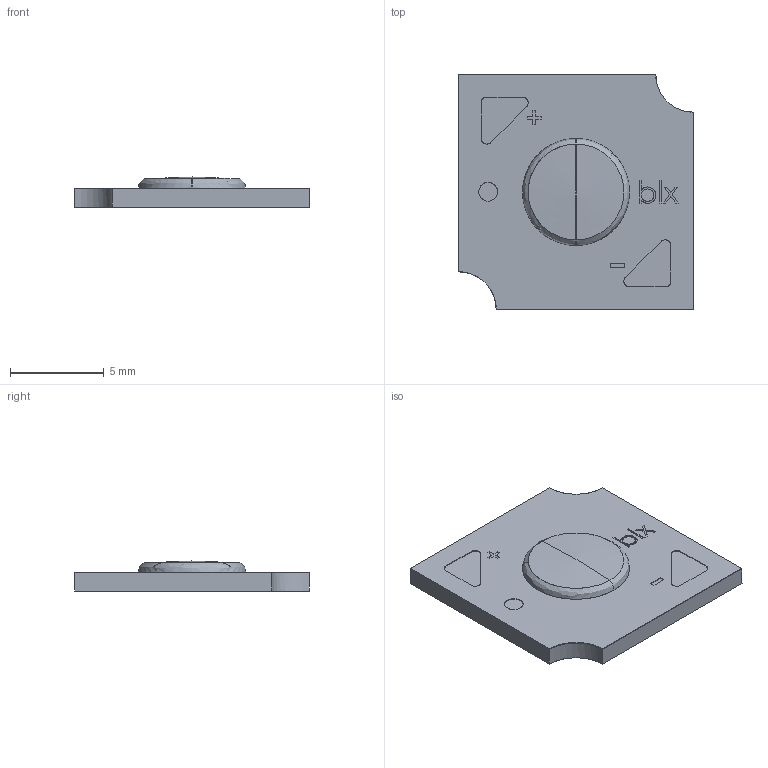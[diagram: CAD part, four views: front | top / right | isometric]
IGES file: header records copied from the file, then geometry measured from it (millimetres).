
Start section: SolidWorks IGES file using analytic representation for surfaces
Bounding box: 12.5 x 12.5 x 1.6 mm (x, y, z)
Surface area: 387.5 mm2 (no closed solid volume)
Topology: 0 solids, 0 shells, 87 faces, 722 edges, 720 vertices
Faces by surface type: bspline 71, revolution 16
